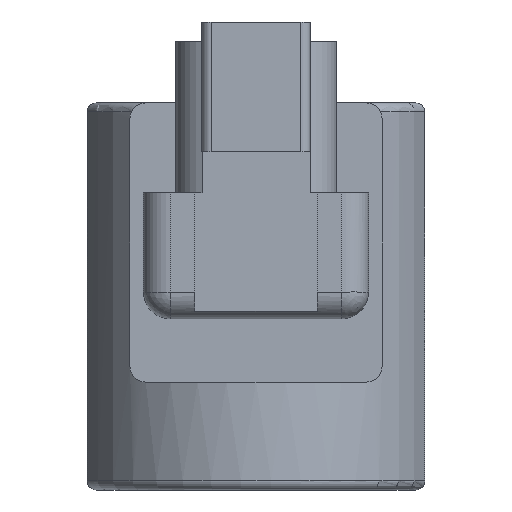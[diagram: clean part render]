
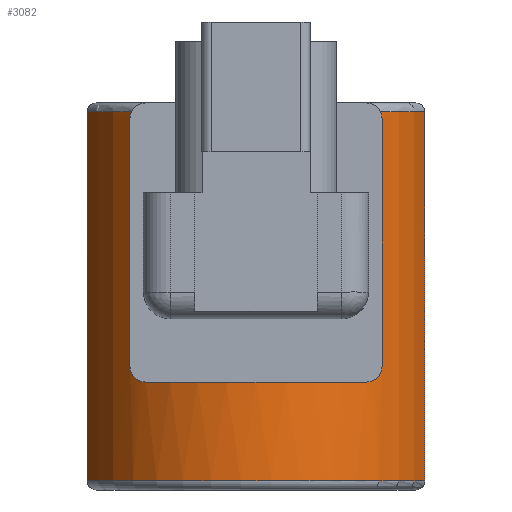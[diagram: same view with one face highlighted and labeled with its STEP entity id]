
A CAD part, left-side view. The second image highlights one B-rep face of the part: STEP entity #3082.
In plain terms, the highlighted cylindrical face has radius 19.5 mm (diameter 39 mm), a partial arc.
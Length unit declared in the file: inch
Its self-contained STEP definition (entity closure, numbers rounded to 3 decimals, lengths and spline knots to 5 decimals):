
#2134=CARTESIAN_POINT('',(6.719,5.19827,-1.65354));
#2135=VERTEX_POINT('',#2134);
#2195=CARTESIAN_POINT('',(6.719,3.72189,-1.65354));
#2196=VERTEX_POINT('',#2195);
#2214=CARTESIAN_POINT('',(6.92987,4.46008,-1.65354));
#2215=DIRECTION('',(0.0,0.0,-1.0));
#2216=DIRECTION('',(-1.0,0.0,0.0));
#2217=AXIS2_PLACEMENT_3D('',#2214,#2215,#2216);
#2218=CIRCLE('',#2217,0.76772);
#2219=EDGE_CURVE('',#2196,#2135,#2218,.T.);
#2319=CARTESIAN_POINT('',(6.719,3.72189,-0.03937));
#2320=VERTEX_POINT('',#2319);
#2327=CARTESIAN_POINT('',(6.719,3.72189,-0.03937));
#2328=DIRECTION('',(0.0,0.0,-1.0));
#2329=VECTOR('',#2328,1.61417);
#2330=LINE('',#2327,#2329);
#2331=EDGE_CURVE('',#2320,#2196,#2330,.T.);
#2646=CARTESIAN_POINT('',(6.38869,5.00461,-0.03937));
#2647=VERTEX_POINT('',#2646);
#2659=CARTESIAN_POINT('',(6.39547,5.01126,-0.0689));
#2660=VERTEX_POINT('',#2659);
#2661=CARTESIAN_POINT('',(6.39547,5.01126,-0.0689));
#2662=CARTESIAN_POINT('',(6.39547,5.01126,-0.06457));
#2663=CARTESIAN_POINT('',(6.39504,5.01085,-0.06017));
#2664=CARTESIAN_POINT('',(6.39334,5.0092,-0.05159));
#2665=CARTESIAN_POINT('',(6.39208,5.00796,-0.04739));
#2666=CARTESIAN_POINT('',(6.38992,5.00584,-0.04205));
#2667=CARTESIAN_POINT('',(6.38933,5.00524,-0.0407));
#2668=CARTESIAN_POINT('',(6.38869,5.00461,-0.03937));
#2669=B_SPLINE_CURVE_WITH_KNOTS('',3,(#2661,#2662,#2663,#2664,#2665,#2666,#2667,#2668),.UNSPECIFIED.,.F.,.U.,(4,2,2,4),(0.0,0.33006,0.66013,0.77574),.UNSPECIFIED.);
#2670=EDGE_CURVE('',#2660,#2647,#2669,.T.);
#2713=CARTESIAN_POINT('',(6.719,5.19827,-0.03937));
#2714=VERTEX_POINT('',#2713);
#2732=CARTESIAN_POINT('',(6.92987,4.46008,-0.03937));
#2733=DIRECTION('',(0.0,0.0,1.0));
#2734=DIRECTION('',(-1.0,0.0,0.0));
#2735=AXIS2_PLACEMENT_3D('',#2732,#2733,#2734);
#2736=CIRCLE('',#2735,0.76772);
#2737=EDGE_CURVE('',#2714,#2647,#2736,.T.);
#2766=CARTESIAN_POINT('',(6.39547,3.9089,-0.0689));
#2767=VERTEX_POINT('',#2766);
#2774=CARTESIAN_POINT('',(6.38869,3.91555,-0.03937));
#2775=VERTEX_POINT('',#2774);
#2776=CARTESIAN_POINT('',(6.38869,3.91555,-0.03937));
#2777=CARTESIAN_POINT('',(6.38933,3.91492,-0.0407));
#2778=CARTESIAN_POINT('',(6.38992,3.91433,-0.04205));
#2779=CARTESIAN_POINT('',(6.39208,3.9122,-0.04739));
#2780=CARTESIAN_POINT('',(6.39334,3.91097,-0.05159));
#2781=CARTESIAN_POINT('',(6.39504,3.90931,-0.06017));
#2782=CARTESIAN_POINT('',(6.39547,3.9089,-0.06457));
#2783=CARTESIAN_POINT('',(6.39547,3.9089,-0.0689));
#2784=B_SPLINE_CURVE_WITH_KNOTS('',3,(#2776,#2777,#2778,#2779,#2780,#2781,#2782,#2783),.UNSPECIFIED.,.F.,.U.,(4,2,2,4),(-0.77574,-0.66013,-0.33006,0.0),.UNSPECIFIED.);
#2785=EDGE_CURVE('',#2775,#2767,#2784,.T.);
#2925=CARTESIAN_POINT('',(6.39547,3.9089,-1.15158));
#2926=VERTEX_POINT('',#2925);
#2927=CARTESIAN_POINT('',(6.39547,3.9089,-0.0689));
#2928=DIRECTION('',(0.0,0.0,-1.0));
#2929=VECTOR('',#2928,1.08268);
#2930=LINE('',#2927,#2929);
#2931=EDGE_CURVE('',#2767,#2926,#2930,.T.);
#2949=CARTESIAN_POINT('',(6.33255,3.9778,-1.22047));
#2950=VERTEX_POINT('',#2949);
#2951=CARTESIAN_POINT('',(6.39547,3.9089,-1.15158));
#2952=CARTESIAN_POINT('',(6.39547,3.9089,-1.15591));
#2953=CARTESIAN_POINT('',(6.39504,3.90931,-1.1603));
#2954=CARTESIAN_POINT('',(6.39334,3.91097,-1.16889));
#2955=CARTESIAN_POINT('',(6.39208,3.9122,-1.17308));
#2956=CARTESIAN_POINT('',(6.3873,3.91692,-1.18495));
#2957=CARTESIAN_POINT('',(6.38276,3.92146,-1.19191));
#2958=CARTESIAN_POINT('',(6.37172,3.93288,-1.20475));
#2959=CARTESIAN_POINT('',(6.36402,3.94109,-1.2107));
#2960=CARTESIAN_POINT('',(6.34813,3.95897,-1.21857));
#2961=CARTESIAN_POINT('',(6.33994,3.96865,-1.22047));
#2962=CARTESIAN_POINT('',(6.33255,3.9778,-1.22047));
#2963=B_SPLINE_CURVE_WITH_KNOTS('',3,(#2951,#2952,#2953,#2954,#2955,#2956,#2957,#2958,#2959,#2960,#2961,#2962),.UNSPECIFIED.,.F.,.U.,(4,2,2,2,2,4),(0.0,0.33006,0.66013,1.32026,2.21635,3.11244),.UNSPECIFIED.);
#2964=EDGE_CURVE('',#2926,#2950,#2963,.T.);
#2982=CARTESIAN_POINT('',(6.33255,4.94236,-1.22047));
#2983=VERTEX_POINT('',#2982);
#2984=CARTESIAN_POINT('',(6.92987,4.46008,-1.22047));
#2985=DIRECTION('',(0.0,0.0,-1.0));
#2986=DIRECTION('',(-1.0,0.0,0.0));
#2987=AXIS2_PLACEMENT_3D('',#2984,#2985,#2986);
#2988=CIRCLE('',#2987,0.76772);
#2989=EDGE_CURVE('',#2950,#2983,#2988,.T.);
#3007=CARTESIAN_POINT('',(6.39547,5.01126,-1.15158));
#3008=VERTEX_POINT('',#3007);
#3009=CARTESIAN_POINT('',(6.33255,4.94236,-1.22047));
#3010=CARTESIAN_POINT('',(6.33994,4.95151,-1.22047));
#3011=CARTESIAN_POINT('',(6.34813,4.96119,-1.21857));
#3012=CARTESIAN_POINT('',(6.36402,4.97907,-1.2107));
#3013=CARTESIAN_POINT('',(6.37172,4.98728,-1.20475));
#3014=CARTESIAN_POINT('',(6.38276,4.9987,-1.19191));
#3015=CARTESIAN_POINT('',(6.3873,5.00324,-1.18495));
#3016=CARTESIAN_POINT('',(6.39208,5.00796,-1.17308));
#3017=CARTESIAN_POINT('',(6.39334,5.0092,-1.16889));
#3018=CARTESIAN_POINT('',(6.39504,5.01085,-1.1603));
#3019=CARTESIAN_POINT('',(6.39547,5.01126,-1.15591));
#3020=CARTESIAN_POINT('',(6.39547,5.01126,-1.15158));
#3021=B_SPLINE_CURVE_WITH_KNOTS('',3,(#3009,#3010,#3011,#3012,#3013,#3014,#3015,#3016,#3017,#3018,#3019,#3020),.UNSPECIFIED.,.F.,.U.,(4,2,2,2,2,4),(-3.11244,-2.21635,-1.32026,-0.66013,-0.33006,0.0),.UNSPECIFIED.);
#3022=EDGE_CURVE('',#2983,#3008,#3021,.T.);
#3040=CARTESIAN_POINT('',(6.39547,5.01126,-1.15158));
#3041=DIRECTION('',(0.0,0.0,1.0));
#3042=VECTOR('',#3041,1.08268);
#3043=LINE('',#3040,#3042);
#3044=EDGE_CURVE('',#3008,#2660,#3043,.T.);
#3052=CARTESIAN_POINT('',(6.92987,4.46008,0.0));
#3053=DIRECTION('',(0.0,0.0,-1.0));
#3054=DIRECTION('',(-1.0,0.0,0.0));
#3055=AXIS2_PLACEMENT_3D('',#3052,#3053,#3054);
#3056=CYLINDRICAL_SURFACE('',#3055,0.76772);
#3057=ORIENTED_EDGE('',*,*,#2331,.F.);
#3058=CARTESIAN_POINT('',(6.92987,4.46008,-0.03937));
#3059=DIRECTION('',(0.0,0.0,1.0));
#3060=DIRECTION('',(-1.0,0.0,0.0));
#3061=AXIS2_PLACEMENT_3D('',#3058,#3059,#3060);
#3062=CIRCLE('',#3061,0.76772);
#3063=EDGE_CURVE('',#2775,#2320,#3062,.T.);
#3064=ORIENTED_EDGE('',*,*,#3063,.F.);
#3065=ORIENTED_EDGE('',*,*,#2785,.T.);
#3066=ORIENTED_EDGE('',*,*,#2931,.T.);
#3067=ORIENTED_EDGE('',*,*,#2964,.T.);
#3068=ORIENTED_EDGE('',*,*,#2989,.T.);
#3069=ORIENTED_EDGE('',*,*,#3022,.T.);
#3070=ORIENTED_EDGE('',*,*,#3044,.T.);
#3071=ORIENTED_EDGE('',*,*,#2670,.T.);
#3072=ORIENTED_EDGE('',*,*,#2737,.F.);
#3073=CARTESIAN_POINT('',(6.719,5.19827,-0.03937));
#3074=DIRECTION('',(0.0,0.0,-1.0));
#3075=VECTOR('',#3074,1.61417);
#3076=LINE('',#3073,#3075);
#3077=EDGE_CURVE('',#2714,#2135,#3076,.T.);
#3078=ORIENTED_EDGE('',*,*,#3077,.T.);
#3079=ORIENTED_EDGE('',*,*,#2219,.F.);
#3080=EDGE_LOOP('',(#3057,#3064,#3065,#3066,#3067,#3068,#3069,#3070,#3071,#3072,#3078,#3079));
#3081=FACE_OUTER_BOUND('',#3080,.T.);
#3082=ADVANCED_FACE('',(#3081),#3056,.T.);
